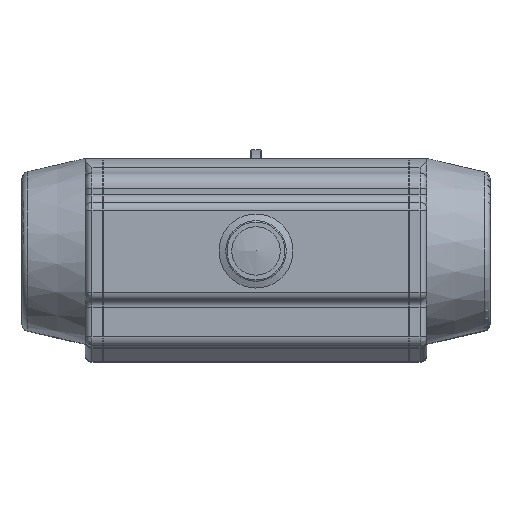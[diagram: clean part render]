
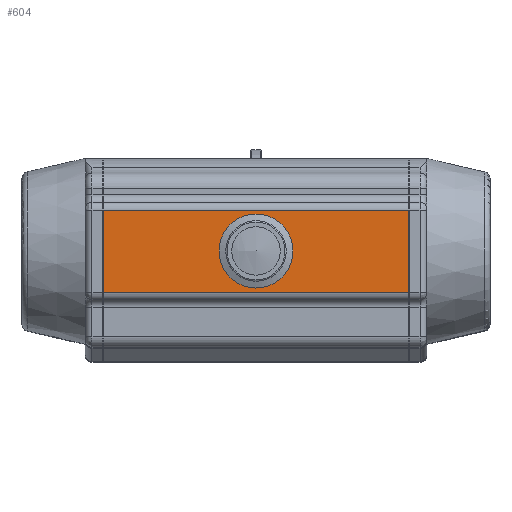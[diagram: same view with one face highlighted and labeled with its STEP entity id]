
A CAD part, top view. The second image highlights one B-rep face of the part: STEP entity #604.
In plain terms, the highlighted planar face has unit normal (0, 0, 1).
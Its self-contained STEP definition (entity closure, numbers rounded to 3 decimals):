
#604 = ADVANCED_FACE( '', ( #1665, #1666 ), #1667, .T. );
#1665 = FACE_BOUND( '', #3338, .T. );
#1666 = FACE_OUTER_BOUND( '', #3339, .T. );
#1667 = PLANE( '', #3340 );
#3338 = EDGE_LOOP( '', ( #5939 ) );
#3339 = EDGE_LOOP( '', ( #5940, #5941, #5942, #5943 ) );
#3340 = AXIS2_PLACEMENT_3D( '', #5944, #5945, #5946 );
#5939 = ORIENTED_EDGE( '', *, *, #11030, .F. );
#5940 = ORIENTED_EDGE( '', *, *, #10932, .F. );
#5941 = ORIENTED_EDGE( '', *, *, #11031, .F. );
#5942 = ORIENTED_EDGE( '', *, *, #11032, .T. );
#5943 = ORIENTED_EDGE( '', *, *, #11033, .T. );
#5944 = CARTESIAN_POINT( '', ( 113.5, -30.5, 79. ) );
#5945 = DIRECTION( '', ( 0., 0., 1. ) );
#5946 = DIRECTION( '', ( 1., 0., 0. ) );
#10932 = EDGE_CURVE( '', #12672, #12674, #12675, .T. );
#11030 = EDGE_CURVE( '', #12851, #12851, #12852, .T. );
#11031 = EDGE_CURVE( '', #12853, #12672, #12854, .T. );
#11032 = EDGE_CURVE( '', #12853, #12855, #12856, .T. );
#11033 = EDGE_CURVE( '', #12855, #12674, #12857, .T. );
#12672 = VERTEX_POINT( '', #15278 );
#12674 = VERTEX_POINT( '', #15280 );
#12675 = LINE( '', #15281, #15282 );
#12851 = VERTEX_POINT( '', #15619 );
#12852 = CIRCLE( '', #15620, 27.5 );
#12853 = VERTEX_POINT( '', #15621 );
#12854 = LINE( '', #15622, #15623 );
#12855 = VERTEX_POINT( '', #15624 );
#12856 = LINE( '', #15625, #15626 );
#12857 = LINE( '', #15627, #15628 );
#15278 = CARTESIAN_POINT( '', ( -113.5, -30.5, 79. ) );
#15280 = CARTESIAN_POINT( '', ( -113.5, 30.5, 79. ) );
#15281 = CARTESIAN_POINT( '', ( -113.5, -30.5, 79. ) );
#15282 = VECTOR( '', #22492, 1000. );
#15619 = CARTESIAN_POINT( '', ( 27.5, 0., 79. ) );
#15620 = AXIS2_PLACEMENT_3D( '', #22615, #22616, #22617 );
#15621 = CARTESIAN_POINT( '', ( 113.5, -30.5, 79. ) );
#15622 = CARTESIAN_POINT( '', ( 113.5, -30.5, 79. ) );
#15623 = VECTOR( '', #22618, 1000. );
#15624 = CARTESIAN_POINT( '', ( 113.5, 30.5, 79. ) );
#15625 = CARTESIAN_POINT( '', ( 113.5, -30.5, 79. ) );
#15626 = VECTOR( '', #22619, 1000. );
#15627 = CARTESIAN_POINT( '', ( 113.5, 30.5, 79. ) );
#15628 = VECTOR( '', #22620, 1000. );
#22492 = DIRECTION( '', ( 0., 1., 0. ) );
#22615 = CARTESIAN_POINT( '', ( 0., 0., 79. ) );
#22616 = DIRECTION( '', ( 0., 0., 1. ) );
#22617 = DIRECTION( '', ( 1., 0., 0. ) );
#22618 = DIRECTION( '', ( -1., 0., 0. ) );
#22619 = DIRECTION( '', ( 0., 1., 0. ) );
#22620 = DIRECTION( '', ( -1., 0., 0. ) );
